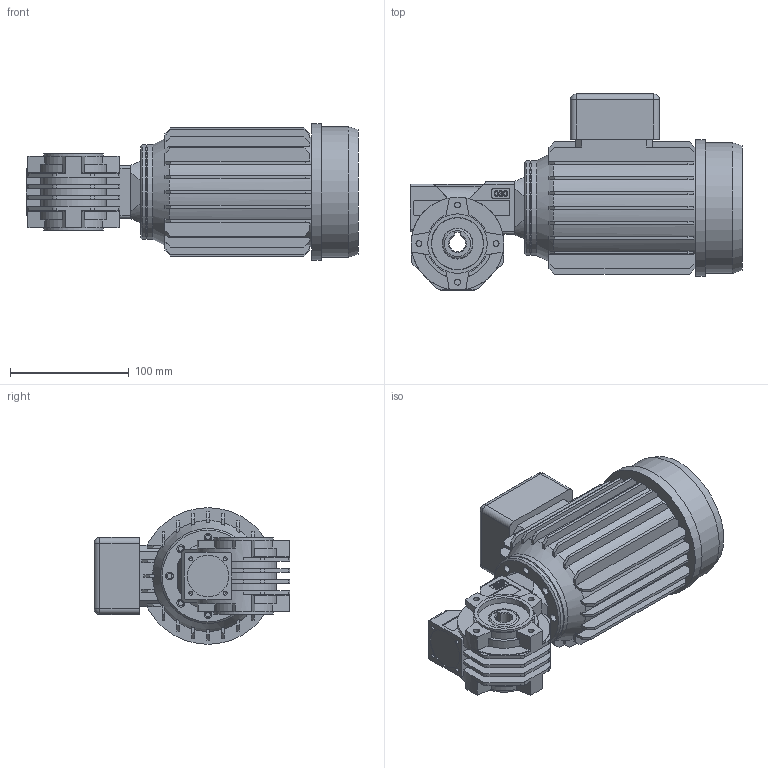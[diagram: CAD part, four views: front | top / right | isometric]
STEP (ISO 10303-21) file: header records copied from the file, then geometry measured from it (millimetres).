
FILE_DESCRIPTION( ( 'Unknown' ), '1' );
FILE_NAME( 'E:/services/configuratordownloads/customers/HYDROMEC/VSF/download/F96DB6B94D8B9EA7B7B14E0E3946E4B/STEP/F96DB6B94D8B9EA7B7B14E0E3946E4B.3d.stp', 'Unknown', ( 'Unknown' ), ( 'Unknown' ), 'PSStep 10.1', 'Unknown', ' ' );
FILE_SCHEMA( ( 'AUTOMOTIVE_DESIGN { 1 0 10303 214 1 1 1 1 }' ) );
Length unit declared in the file: millimetre
Products named in the file (1): 0308800
Bounding box: 279.5 x 165 x 115 mm (x, y, z)
Volume: 1897657.6 mm3; surface area: 189889.9 mm2
Topology: 1 solids, 6 shells, 535 faces, 1406 edges, 925 vertices
Faces by surface type: plane 376, cylinder 130, cone 13, bspline 8, sphere 4, torus 4
Full cylindrical faces by diameter (mm): 3.242 x4, 4.134 x4, 4.2 x8, 4.917 x8, 6.5 x8, 20 x1, 26 x2, 30 x1, 35 x1, 44 x1, 50 x2, 80 x2, 93.146 x1, 110 x1, 115 x1
Entity records: 22768 total; most frequent: CARTESIAN_POINT 5471, DIRECTION 2700, ORIENTED_EDGE 2618, EDGE_CURVE 1309, AXIS2_PLACEMENT_3D 921, VERTEX_POINT 900, LINE 858, VECTOR 858
